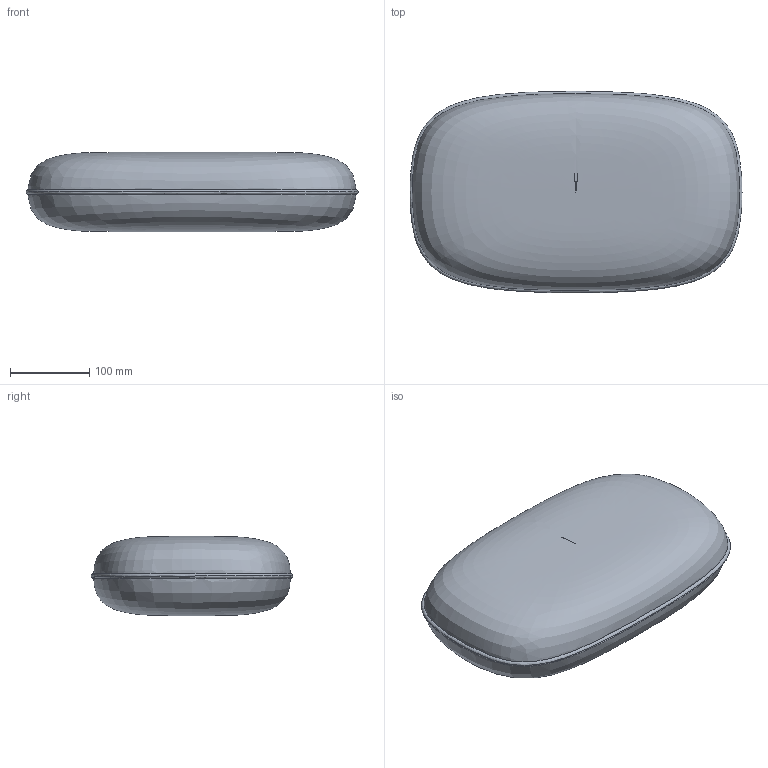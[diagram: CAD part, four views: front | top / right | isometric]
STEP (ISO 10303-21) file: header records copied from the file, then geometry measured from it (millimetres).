
FILE_DESCRIPTION(/* description */ (''),/* implementation_level */ '2;1');
FILE_NAME(/* name */ 'kinoshita_abord_s005-cushion',/* time_stamp */ '2025-08-27T17:22:09+09:00',/* author */ (''),/* organization */ (''),/* preprocessor_version */ 'ST-DEVELOPER v16.5',/* originating_system */ '',/* authorisation */ '');
FILE_SCHEMA (('AUTOMOTIVE_DESIGN'));
Length unit declared in the file: millimetre
Products named in the file (1): Document
Bounding box: 419.58 x 254.61 x 99.99 mm (x, y, z)
Volume: 7866880.3 mm3; surface area: 248387.4 mm2
Topology: 1 solids, 1 shells, 4 faces, 9 edges, 5 vertices
Faces by surface type: bspline 4
Entity records: 5734 total; most frequent: CARTESIAN_POINT 5665, ORIENTED_EDGE 14, EDGE_CURVE 7, VERTEX_POINT 5, ADVANCED_FACE 4, FACE_OUTER_BOUND 4, EDGE_LOOP 4, B_SPLINE_CURVE_WITH_KNOTS 4
